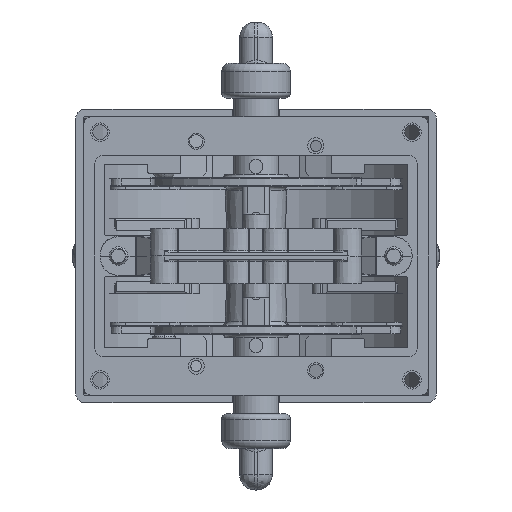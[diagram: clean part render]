
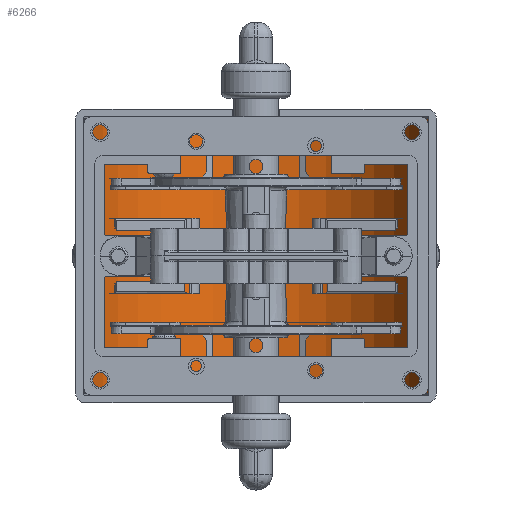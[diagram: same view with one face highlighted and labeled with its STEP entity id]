
A CAD part, front view. The second image highlights one B-rep face of the part: STEP entity #6266.
In plain terms, the highlighted cylindrical face has radius 60.325 mm (diameter 120.65 mm), a partial arc.
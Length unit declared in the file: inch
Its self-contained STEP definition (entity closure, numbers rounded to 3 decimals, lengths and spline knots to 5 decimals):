
#2836 = DIRECTION ( 'NONE',  ( 0., 0., -1. ) ) ;
#2841 = AXIS2_PLACEMENT_3D ( 'NONE', #33748, #50716, #12747 ) ;
#4671 = CARTESIAN_POINT ( 'NONE',  ( 2.34311, 0.70042, 1.875 ) ) ;
#6266 = ADVANCED_FACE ( 'NONE', ( #12178 ), #29069, .F. ) ;
#8812 = LINE ( 'NONE', #25726, #23305 ) ;
#11248 = DIRECTION ( 'NONE',  ( 0., 0., 1. ) ) ;
#12149 = CARTESIAN_POINT ( 'NONE',  ( -2.34311, 0.70042, 2. ) ) ;
#12178 = FACE_OUTER_BOUND ( 'NONE', #38198, .T. ) ;
#12747 = DIRECTION ( 'NONE',  ( -1., 0., 0. ) ) ;
#14651 = VERTEX_POINT ( 'NONE', #28989 ) ;
#19833 = DIRECTION ( 'NONE',  ( -1., 0., 0. ) ) ;
#19927 = CIRCLE ( 'NONE', #50901, 2.375 ) ;
#20101 = VERTEX_POINT ( 'NONE', #33106 ) ;
#23305 = VECTOR ( 'NONE', #42575, 39.37008 ) ;
#24444 = AXIS2_PLACEMENT_3D ( 'NONE', #49232, #11248, #28131 ) ;
#25726 = CARTESIAN_POINT ( 'NONE',  ( 2.34311, 0.70042, 2. ) ) ;
#28131 = DIRECTION ( 'NONE',  ( -1., 0., 0. ) ) ;
#28989 = CARTESIAN_POINT ( 'NONE',  ( -2.34311, 0.70042, -1.875 ) ) ;
#29042 = DIRECTION ( 'NONE',  ( 0., 0., -1. ) ) ;
#29069 = CYLINDRICAL_SURFACE ( 'NONE', #2841, 2.375 ) ;
#29973 = ORIENTED_EDGE ( 'NONE', *, *, #30222, .F. ) ;
#30222 = EDGE_CURVE ( 'NONE', #51481, #20101, #8812, .T. ) ;
#33106 = CARTESIAN_POINT ( 'NONE',  ( 2.34311, 0.70042, -1.875 ) ) ;
#33748 = CARTESIAN_POINT ( 'NONE',  ( 0., 0.3125, 2. ) ) ;
#34926 = VERTEX_POINT ( 'NONE', #51712 ) ;
#35495 = EDGE_CURVE ( 'NONE', #34926, #14651, #50126, .T. ) ;
#38198 = EDGE_LOOP ( 'NONE', ( #29973, #42076, #40579, #45514 ) ) ;
#38607 = EDGE_CURVE ( 'NONE', #34926, #51481, #19927, .T. ) ;
#40579 = ORIENTED_EDGE ( 'NONE', *, *, #35495, .T. ) ;
#40803 = CARTESIAN_POINT ( 'NONE',  ( 0., 0.3125, 1.875 ) ) ;
#42076 = ORIENTED_EDGE ( 'NONE', *, *, #38607, .F. ) ;
#42565 = VECTOR ( 'NONE', #29042, 39.37008 ) ;
#42575 = DIRECTION ( 'NONE',  ( 0., 0., -1. ) ) ;
#44703 = EDGE_CURVE ( 'NONE', #20101, #14651, #48302, .T. ) ;
#45514 = ORIENTED_EDGE ( 'NONE', *, *, #44703, .F. ) ;
#48302 = CIRCLE ( 'NONE', #24444, 2.375 ) ;
#49232 = CARTESIAN_POINT ( 'NONE',  ( 0., 0.3125, -1.875 ) ) ;
#50126 = LINE ( 'NONE', #12149, #42565 ) ;
#50716 = DIRECTION ( 'NONE',  ( 0., 0., -1. ) ) ;
#50901 = AXIS2_PLACEMENT_3D ( 'NONE', #40803, #2836, #19833 ) ;
#51481 = VERTEX_POINT ( 'NONE', #4671 ) ;
#51712 = CARTESIAN_POINT ( 'NONE',  ( -2.34311, 0.70042, 1.875 ) ) ;
